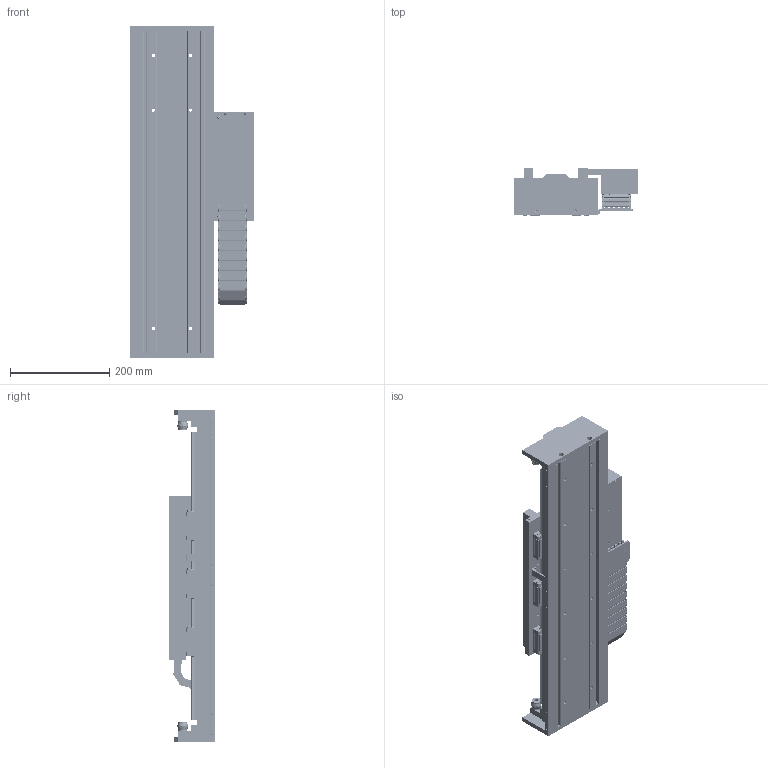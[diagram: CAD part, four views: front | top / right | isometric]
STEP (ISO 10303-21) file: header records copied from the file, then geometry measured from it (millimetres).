
FILE_DESCRIPTION (( 'STEP AP203' ), '1' );
FILE_NAME ('STF35230A-xC1B-Axx.STEP', '2007-07-02T20:57:41', ( 'Yaskawa' ), ( 'Yaskawa' ), 'SwSTEP 2.0', 'SolidWorks 2007', '' );
FILE_SCHEMA (( 'CONFIG_CONTROL_DESIGN' ));
Products named in the file (53): SGLFM-35540AC-2; End Stop with Bumper; STF35230A-xC1B-Axx; STF35120 Base_STF35BM-002; STF35BM Base_STF35120-002; STF2035-001D F35-230 Carriage; STF35230 Complete Carriage; STF2035-002B-R1 F35-230 Carriage Horn; SSR15W Block; STF2035-004 Flag; SGLFW-35A230AP; RGH22B; STF2035-003 Renishaw Encoder Mount; STCM-001-R2 Cable Bracket; STCM-R1; STCM-002-R2 Cable Assembly Front; STCM-006-R1 Upper E-chain Bracket; STF2035-005-R2 Cable Router; STCM-003 Cable Assembly Bottom; STCM-005-R1 Cable Assembly Cover; STCM-004 Cable Assembly Side; Serial Converter; STF2035-006 Endplate; B18.3.5M - 3 x 0.5 x 6 Socket FCHS  -- 6N_B18.3.5M - 3 x 0.5 x 6 Socket FCHS  -- 6N; B18.3.4M - 3 x 0.5 x 12 SBHCS --N_B18.3.4M - 3 x 0.5 x 12 SBHCS --N; STCM-007 Lower E-Chain Bracket; 07.50.028.0_17; STF20120B; 07.50.028.0_18; 07.50.028.0_20; 07.50.028.0_22; 07.50.028.0_19; 07.50.028.0_21; 07.50.028.0_23; 07.50.028.0_24; 07.50.028.0_25; 07.50.028.0_28; 07.50.028.0_27; 07.50.028.0_26; 07.50.028.0_29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
Assembly tree (71 placements, depth 4):
  STF35230A-xC1B-Axx
    STF35230 Complete Carriage
      STF2035-005-R2 Cable Router
      STF2035-004 Flag
      SSR15W Block  x6
      STF2035-003 Renishaw Encoder Mount
      STF2035-002B-R1 F35-230 Carriage Horn  x2
      STF2035-001D F35-230 Carriage
      STCM-R1
        STCM-004 Cable Assembly Side
        STCM-006-R1 Upper E-chain Bracket
        Serial Converter
        B18.3.4M - 3 x 0.5 x 12 SBHCS --N_B18.3.4M - 3 x 0.5 x 12 SBHCS --N  x4
        STCM-003 Cable Assembly Bottom
        B18.3.5M - 3 x 0.5 x 6 Socket FCHS  -- 6N_B18.3.5M - 3 x 0.5 x 6 Socket FCHS  -- 6N  x6
        STCM-005-R1 Cable Assembly Cover
        STCM-002-R2 Cable Assembly Front
        STCM-001-R2 Cable Bracket
      SGLFW-35A230AP
      RGH22B
    STF20120B
      07.50.028.0_17
      07.50.028.0_29
      07.50.028.0_26
      07.50.028.0_23
      07.50.028.0_31
      07.50.028.0_36
      07.50.028.0_27
      07.50.028.0_38
      07.50.028.0_28
      07.50.028.0_32
      07.50.028.0_22
      07.50.028.0_19
      07.50.028.0_35
      07.50.028.0_34
      07.50.028.0_20
      07.50.028.0_30
      07.50.028.0_21
      07.50.028.0_18
      07.50.028.0_33
      07.50.028.0_24
      07.50.028.0_37
      07.50.028.0_25
    STF2035-006 Endplate  x2
    STF35BM Base_STF35120-002
      SGLFM-35540AC-2
      End Stop with Bumper  x4
        STF2035-007 End Stop
        Bumper-Medium
        B18.3.1M - 6 x 1.0 x 16 Hex SHCS -- 16NHX_B18.3.1M - 6 x 1.0 x 16 Hex SHCS -- 16NHX
      STF35120 Base_STF35BM-002
      Mult-SR15+580LY_002  x2
    STCM-007 Lower E-Chain Bracket
Bounding box: 251.03 x 94.7 x 669.05 mm (x, y, z)
Volume: 4708767.3 mm3; surface area: 1289100.3 mm2
Topology: 92 solids, 92 shells, 5281 faces, 13589 edges, 8613 vertices
Faces by surface type: plane 2680, cylinder 2051, cone 448, bspline 62, torus 32, sphere 8
Entity records: 115823 total; most frequent: DIRECTION 19460, CARTESIAN_POINT 19301, ORIENTED_EDGE 18140, EDGE_CURVE 9070, AXIS2_PLACEMENT_3D 6795, VERTEX_POINT 5935, VECTOR 5870, LINE 5870
